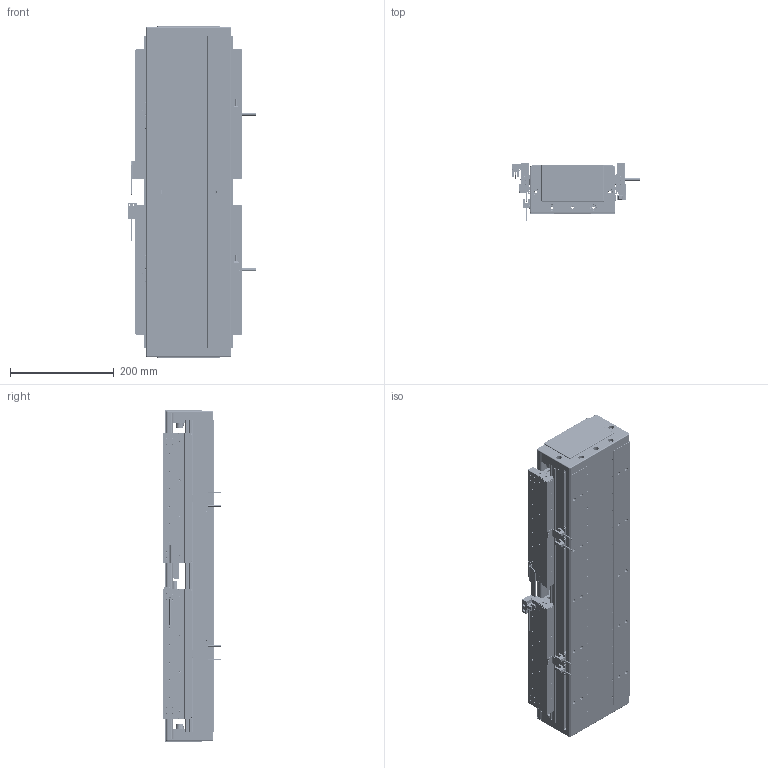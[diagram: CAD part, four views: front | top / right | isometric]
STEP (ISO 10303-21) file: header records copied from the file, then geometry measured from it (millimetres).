
FILE_DESCRIPTION (( 'STEP AP203' ), '1' );
FILE_NAME ('DA-C165-2-C3-T20-C010-0.2 直线电机.STEP', '2023-06-13T09:36:29', ( '微软用户' ), ( '微软中国' ), 'SwSTEP 2.0', 'SolidWorks 2019', '' );
FILE_SCHEMA (( 'CONFIG_CONTROL_DESIGN' ));
Length unit declared in the file: millimetre
Products named in the file (19): 复件 DKW-HXJ-JY-00 缓冲橡胶^DA-C165-C3-T-C010-0.2-N 直线电机; 葩璃 CKM03-W075-C1C2-TP-3.0^DA-C165-C3-T-C010-0.2-N 眻盄萇儂; 葩璃 CKM01-W075-TRL^DA-C165-C3-T-C010-0.2-N 眻盄萇儂; 复件 DA165-DG-H-N-00 端盖^DA-C165-C3-T-C010-0.2-N 直线电机; 葩璃 DA95-GT-T-00^IU-CU165-L 菁釱絳寢_T; 复件 DA165-GYP-00 光电感应片^DA-C165-C3-T-C010-0.2-N 直线电机; 复件 XD-U-02L 磁栅尺^DA-C165-C3-T-C010-0.2-N 直线电机_T; 复件 DA95-HXJ-00 缓冲橡胶^DA-C165-C3-T-C010-0.2-N 直线电机; 复件 DA126-GYP-ZJ-00 中间光电感应片^DA-C165-C3-T-C010-0.2-N 直线电机; IU-CU165-L 菁釱絳寢; 复件 CU165 底座^IU-CU165-L 底座导轨_L600; DA-C165-2-C3-T20-C010-0.2 眻盄萇儂; 复件 DMA-010-0.2 读数头^DA-C165-C3-T-C010-0.2-N 直线电机; 葩璃 PM-T45^DA-C165-C3-T-C010-0.2-N 眻盄萇儂; 复件 六角薄螺母 M3^DA-C165-C3-T-C010-0.2-N 直线电机_GB_FASTENER_NUT_STNAB M3-C; 珨极趙賑雄怢啣C3-wf; 复件 DA165-T-002-00 盖板^DA-C165-C3-T-C010-0.2-N 直线电机_0840-002-00; 复件 66338-1000-006-00 光电感应块^DA-C165-C3-T-C010-0.2-N 直线电机; 葩璃 PM-Y45^DA-C165-C3-T-C010-0.2-N 眻盄萇儂
Assembly tree (40 placements, depth 3):
  DA-C165-2-C3-T20-C010-0.2 眻盄萇儂
    IU-CU165-L 菁釱絳寢
      复件 CU165 底座^IU-CU165-L 底座导轨_L600
      葩璃 DA95-GT-T-00^IU-CU165-L 菁釱絳寢_T  x4
    复件 DA165-DG-H-N-00 端盖^DA-C165-C3-T-C010-0.2-N 直线电机  x2
    复件 DA95-HXJ-00 缓冲橡胶^DA-C165-C3-T-C010-0.2-N 直线电机  x4
    复件 DA165-T-002-00 盖板^DA-C165-C3-T-C010-0.2-N 直线电机_0840-002-00
    复件 XD-U-02L 磁栅尺^DA-C165-C3-T-C010-0.2-N 直线电机_T
    葩璃 PM-T45^DA-C165-C3-T-C010-0.2-N 眻盄萇儂  x4
    葩璃 CKM01-W075-TRL^DA-C165-C3-T-C010-0.2-N 眻盄萇儂
    复件 DMA-010-0.2 读数头^DA-C165-C3-T-C010-0.2-N 直线电机  x2
    复件 DA165-GYP-00 光电感应片^DA-C165-C3-T-C010-0.2-N 直线电机  x2
    复件 66338-1000-006-00 光电感应块^DA-C165-C3-T-C010-0.2-N 直线电机
    葩璃 PM-Y45^DA-C165-C3-T-C010-0.2-N 眻盄萇儂
    复件 DA126-GYP-ZJ-00 中间光电感应片^DA-C165-C3-T-C010-0.2-N 直线电机
    葩璃 CKM03-W075-C1C2-TP-3.0^DA-C165-C3-T-C010-0.2-N 眻盄萇儂  x2
    复件 DKW-HXJ-JY-00 缓冲橡胶^DA-C165-C3-T-C010-0.2-N 直线电机  x2
    复件 六角薄螺母 M3^DA-C165-C3-T-C010-0.2-N 直线电机_GB_FASTENER_NUT_STNAB M3-C  x8
    珨极趙賑雄怢啣C3-wf  x2
Bounding box: 247.2 x 111.45 x 640 mm (x, y, z)
Volume: 8148722.3 mm3; surface area: 1882407.1 mm2
Topology: 117 solids, 217 shells, 5534 faces, 14099 edges, 8588 vertices
Faces by surface type: cylinder 2520, plane 1962, cone 956, torus 88, sphere 8
Entity records: 98626 total; most frequent: CARTESIAN_POINT 21394, DIRECTION 16071, ORIENTED_EDGE 15084, EDGE_CURVE 7542, AXIS2_PLACEMENT_3D 6013, VERTEX_POINT 4842, VECTOR 4045, LINE 4045
